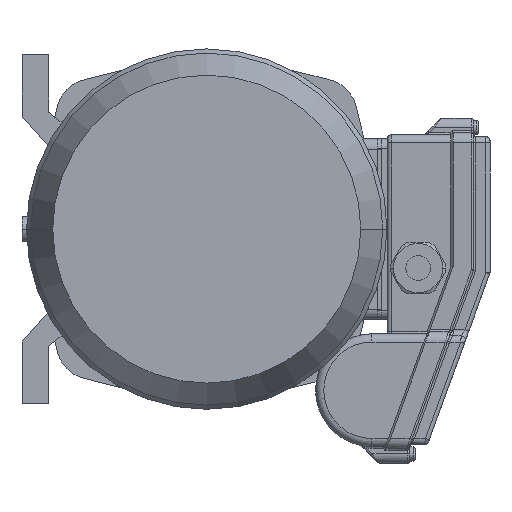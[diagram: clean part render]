
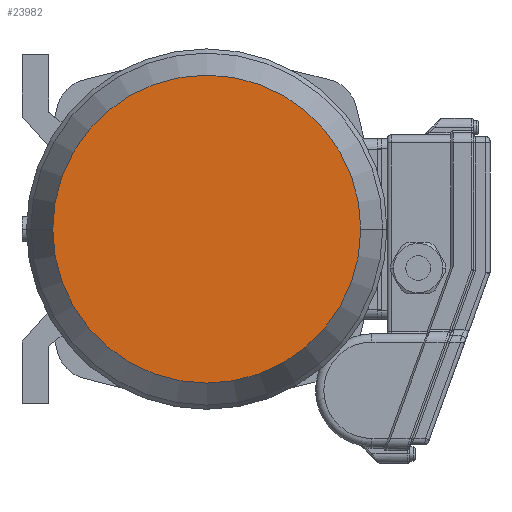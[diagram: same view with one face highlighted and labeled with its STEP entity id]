
A CAD part, front view. The second image highlights one B-rep face of the part: STEP entity #23982.
In plain terms, the highlighted planar face has unit normal (0, -1, 0) as drawn and (1, 0, 0) by its records, which use the part's own axes.
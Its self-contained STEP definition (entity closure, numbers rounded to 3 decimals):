
#17493=CARTESIAN_POINT('',(242.,0.,0.));
#17494=DIRECTION('',(-1.,0.,0.));
#17495=DIRECTION('',(0.,1.,0.));
#17496=AXIS2_PLACEMENT_3D('',#17493,#17494,#17495);
#17501=CARTESIAN_POINT('',(242.,0.,0.));
#17502=DIRECTION('',(1.,0.,0.));
#17503=DIRECTION('',(0.,1.,0.));
#17504=AXIS2_PLACEMENT_3D('',#17501,#17502,#17503);
#18195=CARTESIAN_POINT('',(242.,75.025,0.));
#18197=VERTEX_POINT('',#18195);
#18205=CARTESIAN_POINT('',(242.,-75.025,0.));
#18207=VERTEX_POINT('',#18205);
#23973=CARTESIAN_POINT('',(242.,0.,0.));
#23974=DIRECTION('',(1.,0.,0.));
#23975=DIRECTION('',(0.,-1.,0.));
#23976=AXIS2_PLACEMENT_3D('',#23973,#23974,#23975);
#23977=PLANE('',#23976);
#23978=ORIENTED_EDGE('',*,*,#23955,.T.);
#23979=ORIENTED_EDGE('',*,*,#23966,.F.);
#23980=EDGE_LOOP('',(#23978,#23979));
#23981=FACE_OUTER_BOUND('',#23980,.F.);
#17497=CIRCLE('',#17496,75.025);
#17505=CIRCLE('',#17504,75.025);
#23955=EDGE_CURVE('',#18197,#18207,#17497,.T.);
#23966=EDGE_CURVE('',#18197,#18207,#17505,.T.);
#23982=ADVANCED_FACE('',(#23981),#23977,.T.);
